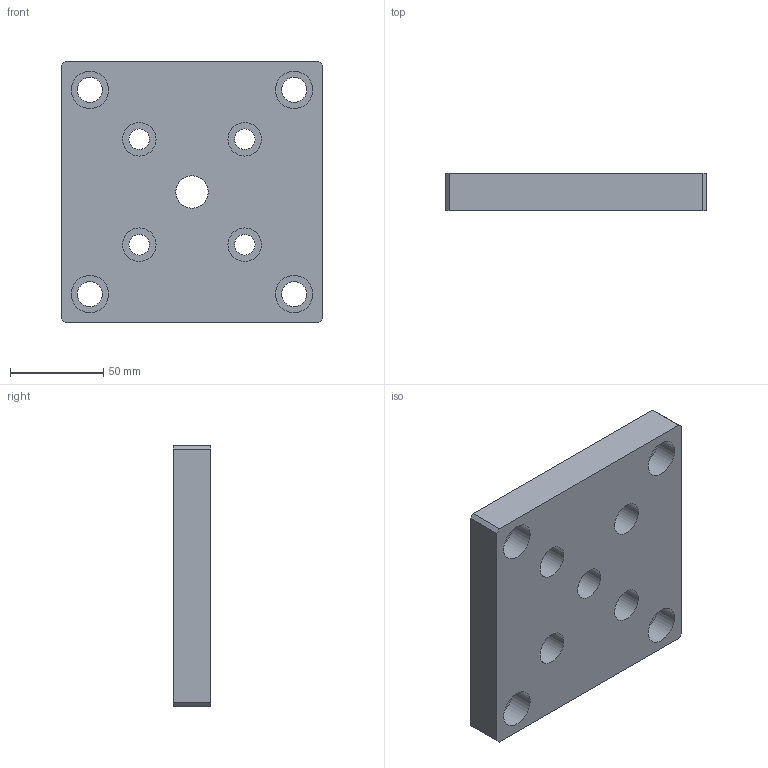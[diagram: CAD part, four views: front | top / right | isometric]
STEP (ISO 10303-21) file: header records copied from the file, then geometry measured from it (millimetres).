
FILE_DESCRIPTION(/* description */ (''),/* implementation_level */ '2;1');
FILE_NAME(/* name */ 'C:\Users\Jefferson\Desktop\Biblioteca Pro Nitro 2024\Flanges\PNB-56-XXX\PNB-56-120.stp',/* time_stamp */ '2024-01-29T14:13:15-03:00',/* author */ ('Jefferson'),/* organization */ (''),/* preprocessor_version */ 'ST-DEVELOPER v18.1',/* originating_system */ 'Autodesk Inventor 2021',/* authorisation */ '');
FILE_SCHEMA (('AUTOMOTIVE_DESIGN { 1 0 10303 214 3 1 1 }'));
Length unit declared in the file: millimetre
Products named in the file (1): PNB-56-120
Bounding box: 140 x 20 x 140 mm (x, y, z)
Volume: 349621 mm3; surface area: 57565.6 mm2
Topology: 1 solids, 1 shells, 189 faces, 509 edges, 345 vertices
Faces by surface type: plane 94, bspline 78, cylinder 17
Full cylindrical faces by diameter (mm): 11 x4, 13.5 x4, 17.294 x1, 18 x4, 20 x4
Entity records: 6415 total; most frequent: CARTESIAN_POINT 2058, ORIENTED_EDGE 1018, DIRECTION 628, EDGE_CURVE 509, VERTEX_POINT 345, LINE 302, VECTOR 302, EDGE_LOOP 230
